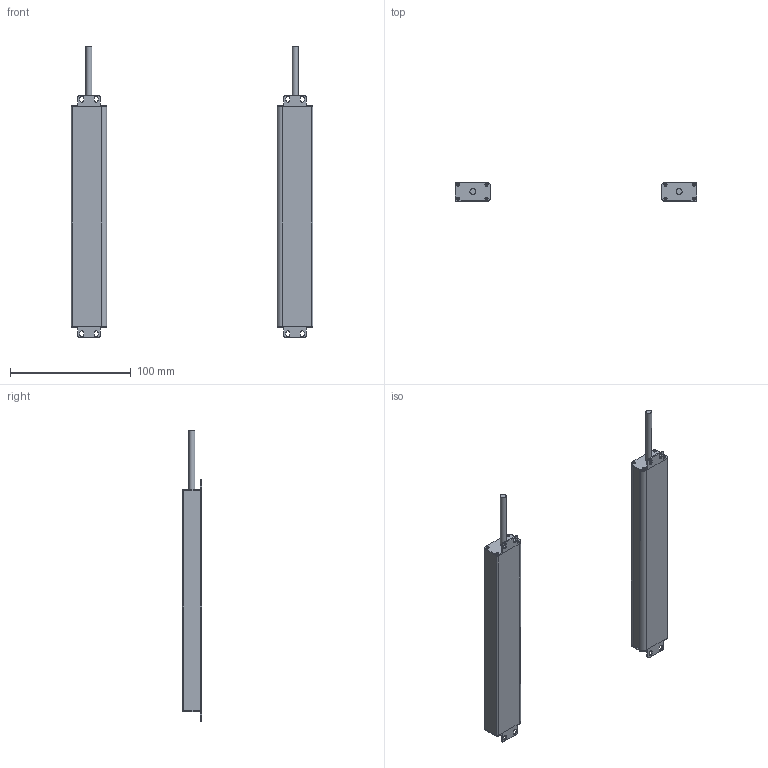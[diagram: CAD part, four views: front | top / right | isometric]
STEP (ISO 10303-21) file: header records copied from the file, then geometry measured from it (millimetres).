
FILE_DESCRIPTION(/* description */ (''),/* implementation_level */ '2;1');
FILE_NAME(/* name */ '1810（16X30w).stp',/* time_stamp */ '2020-10-26T11:06:56+08:00',/* author */ (''),/* organization */ (''),/* preprocessor_version */ 'ST-DEVELOPER v16',/* originating_system */ 'SIEMENS PLM Software NX 10.0',/* authorisation */ '');
FILE_SCHEMA (('AP203_CONFIGURATION_CONTROLLED_3D_DESIGN_OF_MECHANICAL_PARTS_AND_ASSEMBLIES_MIM_LF { 1 0 10303 403 2 1 2}'));
Length unit declared in the file: millimetre
Products named in the file (1): Admi0CD0C014p9q1
Bounding box: 200 x 16 x 241.5 mm (x, y, z)
Volume: 55562.3 mm3; surface area: 82900.4 mm2
Topology: 10 solids, 10 shells, 296 faces, 830 edges, 554 vertices
Faces by surface type: plane 160, cylinder 136
Full cylindrical faces by diameter (mm): 5 x2
Entity records: 9760 total; most frequent: DIRECTION 1692, CARTESIAN_POINT 1675, ORIENTED_EDGE 1652, EDGE_CURVE 826, AXIS2_PLACEMENT_3D 569, LINE 554, VECTOR 554, VERTEX_POINT 552
